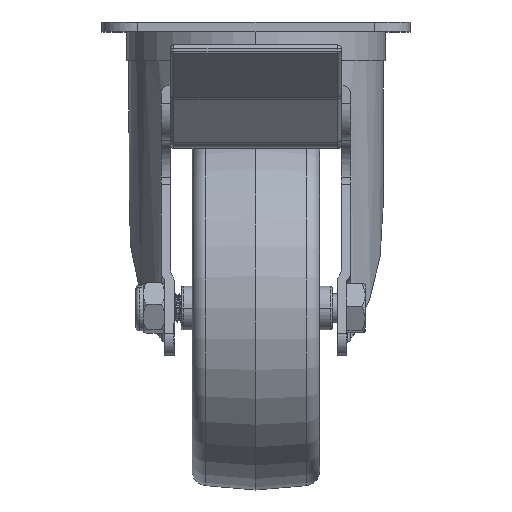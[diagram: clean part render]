
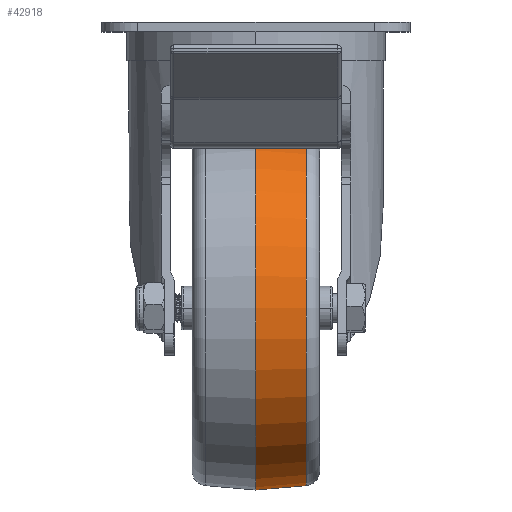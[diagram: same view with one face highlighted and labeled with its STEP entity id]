
A CAD part, top view. The second image highlights one B-rep face of the part: STEP entity #42918.
In plain terms, the highlighted conical face has half-angle 4.954 degrees and reference radius 50 mm.
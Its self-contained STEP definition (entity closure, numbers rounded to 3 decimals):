
#1837 = VERTEX_POINT ( 'NONE', #41423 ) ;
#1935 = CARTESIAN_POINT ( 'NONE',  ( 0., 0., 50. ) ) ;
#2838 = DIRECTION ( 'NONE',  ( 0., -0.996, 0.086 ) ) ;
#4128 = CONICAL_SURFACE ( 'NONE', #15806, 50., 0.086 ) ;
#4376 = CARTESIAN_POINT ( 'NONE',  ( 0., 13.845, 0. ) ) ;
#4522 = CARTESIAN_POINT ( 'NONE',  ( 0., 0., 0. ) ) ;
#9454 = LINE ( 'NONE', #41655, #54704 ) ;
#13370 = DIRECTION ( 'NONE',  ( 0., 0., -1. ) ) ;
#13718 = CIRCLE ( 'NONE', #22422, 50. ) ;
#15057 = DIRECTION ( 'NONE',  ( 0., 0., -1. ) ) ;
#15806 = AXIS2_PLACEMENT_3D ( 'NONE', #54945, #29019, #15057 ) ;
#16883 = VECTOR ( 'NONE', #2838, 1000. ) ;
#18173 = CARTESIAN_POINT ( 'NONE',  ( 0., 13.845, 48.8 ) ) ;
#20645 = CARTESIAN_POINT ( 'NONE',  ( 0., 0., 50. ) ) ;
#21572 = EDGE_LOOP ( 'NONE', ( #43463, #37008, #59635, #24062 ) ) ;
#22422 = AXIS2_PLACEMENT_3D ( 'NONE', #4522, #26742, #13370 ) ;
#24062 = ORIENTED_EDGE ( 'NONE', *, *, #37458, .F. ) ;
#26742 = DIRECTION ( 'NONE',  ( 0., -1., 0. ) ) ;
#29019 = DIRECTION ( 'NONE',  ( 0., -1., 0. ) ) ;
#35197 = EDGE_CURVE ( 'NONE', #42795, #52656, #13718, .T. ) ;
#37008 = ORIENTED_EDGE ( 'NONE', *, *, #56427, .T. ) ;
#37458 = EDGE_CURVE ( 'NONE', #1837, #42795, #9454, .T. ) ;
#38137 = FACE_OUTER_BOUND ( 'NONE', #21572, .T. ) ;
#41423 = CARTESIAN_POINT ( 'NONE',  ( 0., 13.845, -48.8 ) ) ;
#41655 = CARTESIAN_POINT ( 'NONE',  ( 0., 0., -50. ) ) ;
#42795 = VERTEX_POINT ( 'NONE', #58620 ) ;
#42918 = ADVANCED_FACE ( 'NONE', ( #38137 ), #4128, .T. ) ;
#43463 = ORIENTED_EDGE ( 'NONE', *, *, #55231, .T. ) ;
#43565 = LINE ( 'NONE', #1935, #16883 ) ;
#49677 = DIRECTION ( 'NONE',  ( 0., 0., -1. ) ) ;
#50880 = AXIS2_PLACEMENT_3D ( 'NONE', #4376, #54511, #49677 ) ;
#51658 = DIRECTION ( 'NONE',  ( 0., -0.996, -0.086 ) ) ;
#52656 = VERTEX_POINT ( 'NONE', #20645 ) ;
#54511 = DIRECTION ( 'NONE',  ( 0., -1., 0. ) ) ;
#54704 = VECTOR ( 'NONE', #51658, 1000. ) ;
#54945 = CARTESIAN_POINT ( 'NONE',  ( 0., 0., 0. ) ) ;
#55231 = EDGE_CURVE ( 'NONE', #1837, #57190, #56676, .T. ) ;
#56427 = EDGE_CURVE ( 'NONE', #57190, #52656, #43565, .T. ) ;
#56676 = CIRCLE ( 'NONE', #50880, 48.8 ) ;
#57190 = VERTEX_POINT ( 'NONE', #18173 ) ;
#58620 = CARTESIAN_POINT ( 'NONE',  ( 0., 0., -50. ) ) ;
#59635 = ORIENTED_EDGE ( 'NONE', *, *, #35197, .F. ) ;
